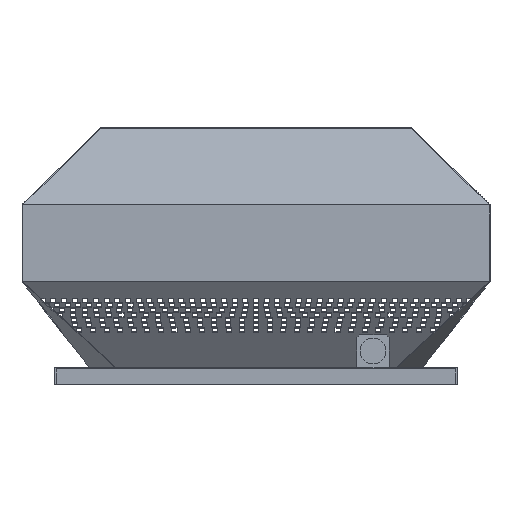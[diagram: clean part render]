
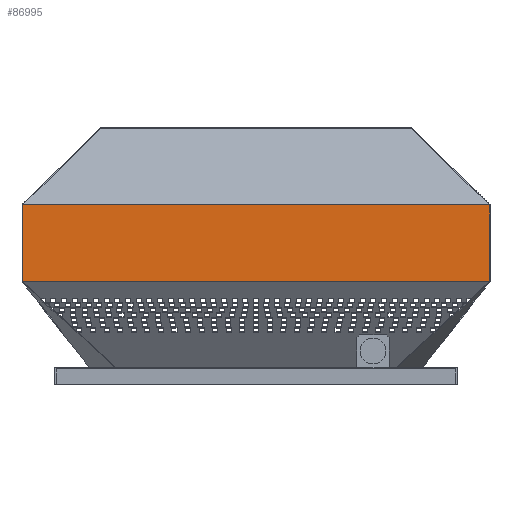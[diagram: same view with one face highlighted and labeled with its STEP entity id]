
A CAD part, left-side view. The second image highlights one B-rep face of the part: STEP entity #86995.
In plain terms, the highlighted planar face has unit normal (-1, 0, 0).
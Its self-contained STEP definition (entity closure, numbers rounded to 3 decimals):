
#7471=PLANE('',#90904);
#11328=FACE_OUTER_BOUND('',#17004,.T.);
#17004=EDGE_LOOP('',(#83101,#83102,#83103,#83104));
#17406=LINE('',#111135,#29054);
#28649=LINE('',#133610,#40297);
#28650=LINE('',#133613,#40298);
#28651=LINE('',#133614,#40299);
#29054=VECTOR('',#91530,10.);
#40297=VECTOR('',#110315,10.);
#40298=VECTOR('',#110318,10.);
#40299=VECTOR('',#110319,10.);
#40578=VERTEX_POINT('',#111037);
#40625=VERTEX_POINT('',#111133);
#48085=VERTEX_POINT('',#133606);
#48087=VERTEX_POINT('',#133612);
#48486=EDGE_CURVE('',#40578,#40625,#17406,.T.);
#59759=EDGE_CURVE('',#48085,#40578,#28649,.T.);
#59760=EDGE_CURVE('',#48087,#48085,#28650,.T.);
#59761=EDGE_CURVE('',#48087,#40625,#28651,.T.);
#83101=ORIENTED_EDGE('',*,*,#59760,.T.);
#83102=ORIENTED_EDGE('',*,*,#59759,.T.);
#83103=ORIENTED_EDGE('',*,*,#48486,.T.);
#83104=ORIENTED_EDGE('',*,*,#59761,.F.);
#86995=ADVANCED_FACE('',(#11328),#7471,.F.);
#90904=AXIS2_PLACEMENT_3D('',#133611,#110316,#110317);
#91530=DIRECTION('',(0.,-1.,0.));
#110315=DIRECTION('',(0.,0.,-1.));
#110316=DIRECTION('center_axis',(1.,0.,0.));
#110317=DIRECTION('ref_axis',(0.,0.,-1.));
#110318=DIRECTION('',(0.,1.,0.));
#110319=DIRECTION('',(0.,0.,-1.));
#111037=CARTESIAN_POINT('',(-537.5,537.5,236.2));
#111133=CARTESIAN_POINT('',(-537.5,-537.5,236.2));
#111135=CARTESIAN_POINT('',(-537.5,537.5,236.2));
#133606=CARTESIAN_POINT('',(-537.5,537.5,413.35));
#133610=CARTESIAN_POINT('',(-537.5,537.5,413.35));
#133611=CARTESIAN_POINT('Origin',(-537.5,537.5,413.35));
#133612=CARTESIAN_POINT('',(-537.5,-537.5,413.35));
#133613=CARTESIAN_POINT('',(-537.5,537.5,413.35));
#133614=CARTESIAN_POINT('',(-537.5,-537.5,413.35));
